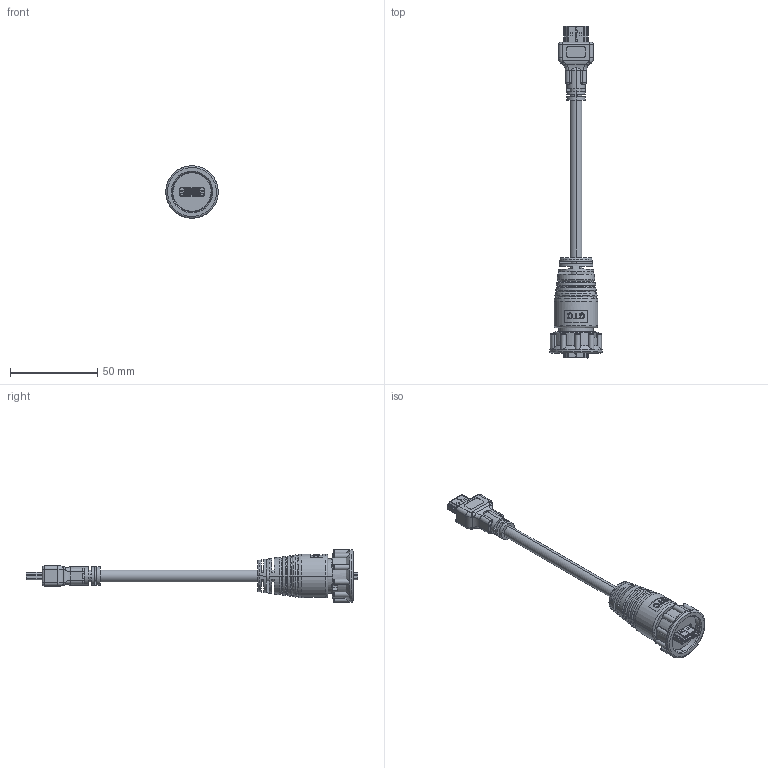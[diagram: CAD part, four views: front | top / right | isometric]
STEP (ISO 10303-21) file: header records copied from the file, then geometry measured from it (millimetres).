
FILE_DESCRIPTION (( 'STEP AP203' ), '1' );
FILE_NAME ('GT1H1220-02-XX.STEP', '2016-01-05T01:26:36', ( '' ), ( '' ), 'SwSTEP 2.0', 'SolidWorks 2012', '' );
FILE_SCHEMA (( 'CONFIG_CONTROL_DESIGN' ));
Length unit declared in the file: millimetre
Products named in the file (8): GT1H1220-02-XX; HDMI非防水公頭; HDMI M外模; 651H1-00020; 701H1-X7101; 661D4-20010; 691H1-X4101; 83024-M0101
Assembly tree (8 placements, depth 3):
  GT1H1220-02-XX
    83024-M0101
    691H1-X4101
    661D4-20010
    701H1-X7101
    651H1-00020
    HDMI非防水公頭
      HDMI M外模
      83024-M0101
Bounding box: 30 x 189.75 x 30 mm (x, y, z)
Volume: 37166.1 mm3; surface area: 21493.8 mm2
Topology: 7 solids, 7 shells, 2690 faces, 7712 edges, 5004 vertices
Faces by surface type: plane 1830, cylinder 631, bspline 107, torus 73, cone 41, sphere 8
Entity records: 53955 total; most frequent: CARTESIAN_POINT 11726, ORIENTED_EDGE 8994, DIRECTION 8163, EDGE_CURVE 4497, LINE 3125, VECTOR 3125, VERTEX_POINT 2906, AXIS2_PLACEMENT_3D 2519
